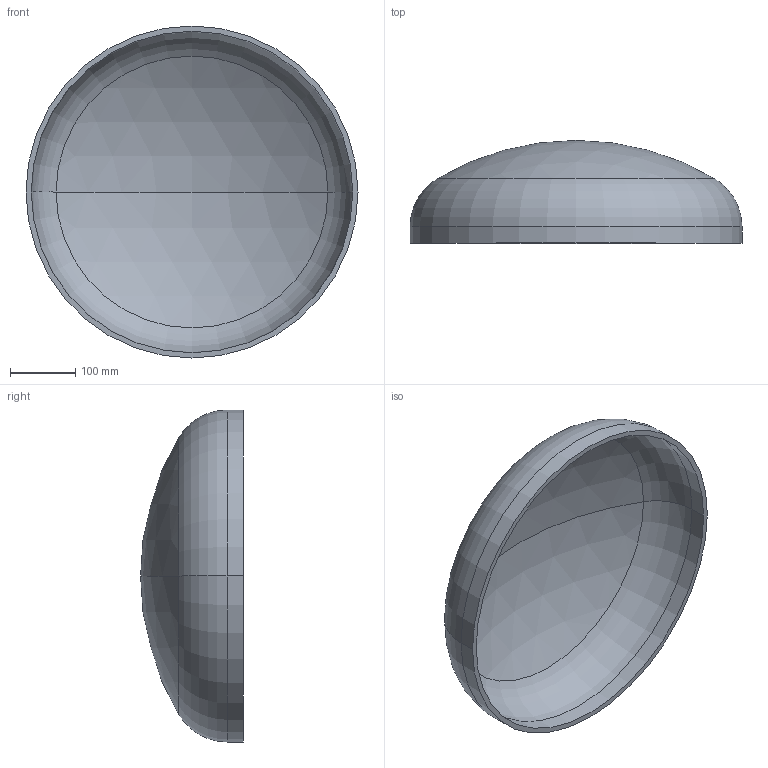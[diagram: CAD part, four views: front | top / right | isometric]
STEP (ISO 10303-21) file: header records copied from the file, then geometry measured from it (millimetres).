
FILE_DESCRIPTION (( 'STEP AP203' ), '1' );
FILE_NAME ('DIN 28013 Korbbogenform_-_Boden DIN 28013 - 508 x 25 - I - s=8.step', '2016-07-01T07:52:06', ( '' ), ( '' ), 'SwSTEP 2.0', 'SolidWorks 2013', '' );
FILE_SCHEMA (( 'CONFIG_CONTROL_DESIGN' ));
Length unit declared in the file: millimetre
Products named in the file (1): DIN 28013 Korbbogenform_-_Boden DIN 28013 - 508 x 25 - I - s=8
Bounding box: 508 x 157.29 x 508 mm (x, y, z)
Volume: 2512562.9 mm3; surface area: 640840.9 mm2
Topology: 1 solids, 1 shells, 13 faces, 24 edges, 14 vertices
Faces by surface type: torus 4, cylinder 4, sphere 4, plane 1
Entity records: 407 total; most frequent: DIRECTION 72, CARTESIAN_POINT 52, ORIENTED_EDGE 48, AXIS2_PLACEMENT_3D 34, EDGE_CURVE 24, CIRCLE 20, EDGE_LOOP 14, VERTEX_POINT 14
